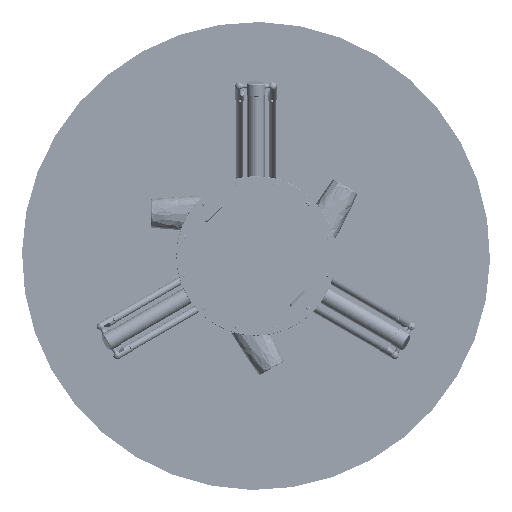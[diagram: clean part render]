
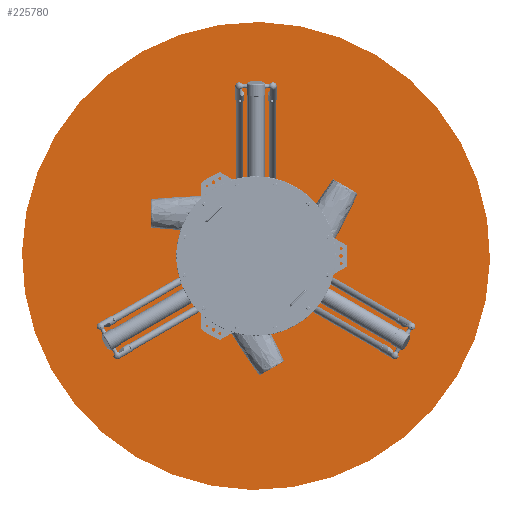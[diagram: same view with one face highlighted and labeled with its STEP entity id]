
A CAD part, front view. The second image highlights one B-rep face of the part: STEP entity #225780.
In plain terms, the highlighted planar face has unit normal (0, -1, 0) as drawn and (0, 1, 0) by its records, which use the part's own axes.
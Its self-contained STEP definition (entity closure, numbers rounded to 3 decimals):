
#2898 = CARTESIAN_POINT ( 'NONE',  ( 0., 500., 0. ) ) ;
#19076 = EDGE_LOOP ( 'NONE', ( #168094, #203867 ) ) ;
#40610 = CARTESIAN_POINT ( 'NONE',  ( 0., 500., 0. ) ) ;
#44653 = PLANE ( 'NONE',  #65297 ) ;
#48008 = CARTESIAN_POINT ( 'NONE',  ( 0., 500., 0. ) ) ;
#52839 = DIRECTION ( 'NONE',  ( 0., 0., -1. ) ) ;
#65297 = AXIS2_PLACEMENT_3D ( 'NONE', #2898, #190531, #52839 ) ;
#96409 = DIRECTION ( 'NONE',  ( 0., 0., 1. ) ) ;
#99051 = DIRECTION ( 'NONE',  ( 0., 0., 1. ) ) ;
#102364 = AXIS2_PLACEMENT_3D ( 'NONE', #40610, #205671, #96409 ) ;
#134885 = AXIS2_PLACEMENT_3D ( 'NONE', #48008, #212957, #99051 ) ;
#145327 = VERTEX_POINT ( 'NONE', #308676 ) ;
#149338 = FACE_OUTER_BOUND ( 'NONE', #19076, .T. ) ;
#155747 = EDGE_CURVE ( 'NONE', #342237, #145327, #240073, .T. ) ;
#164577 = CIRCLE ( 'NONE', #102364, 1100. ) ;
#168094 = ORIENTED_EDGE ( 'NONE', *, *, #253353, .T. ) ;
#190531 = DIRECTION ( 'NONE',  ( 0., -1., 0. ) ) ;
#197510 = CARTESIAN_POINT ( 'NONE',  ( 0., 500., -1100. ) ) ;
#203867 = ORIENTED_EDGE ( 'NONE', *, *, #155747, .T. ) ;
#205671 = DIRECTION ( 'NONE',  ( 0., 1., 0. ) ) ;
#212957 = DIRECTION ( 'NONE',  ( 0., 1., 0. ) ) ;
#225780 = ADVANCED_FACE ( 'NONE', ( #149338 ), #44653, .F. ) ;
#240073 = CIRCLE ( 'NONE', #134885, 1100. ) ;
#253353 = EDGE_CURVE ( 'NONE', #145327, #342237, #164577, .T. ) ;
#308676 = CARTESIAN_POINT ( 'NONE',  ( 0., 500., 1100. ) ) ;
#342237 = VERTEX_POINT ( 'NONE', #197510 ) ;
